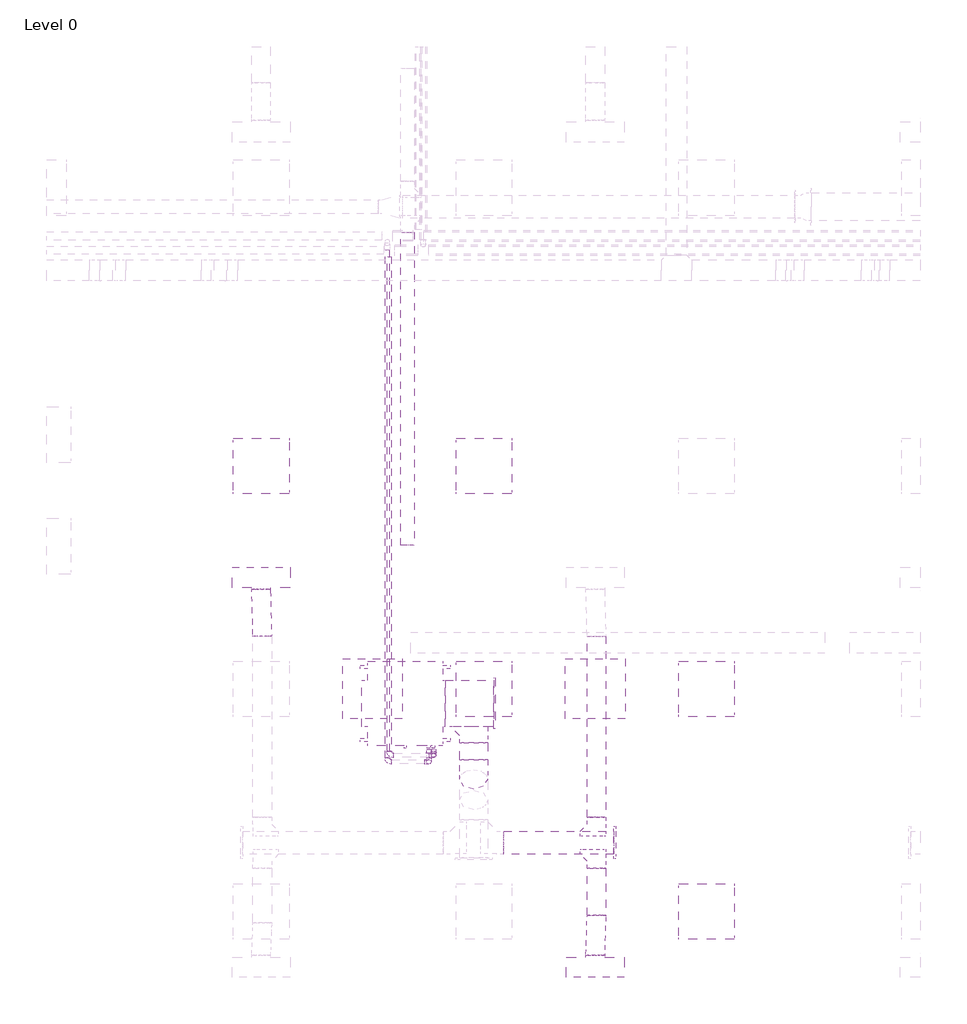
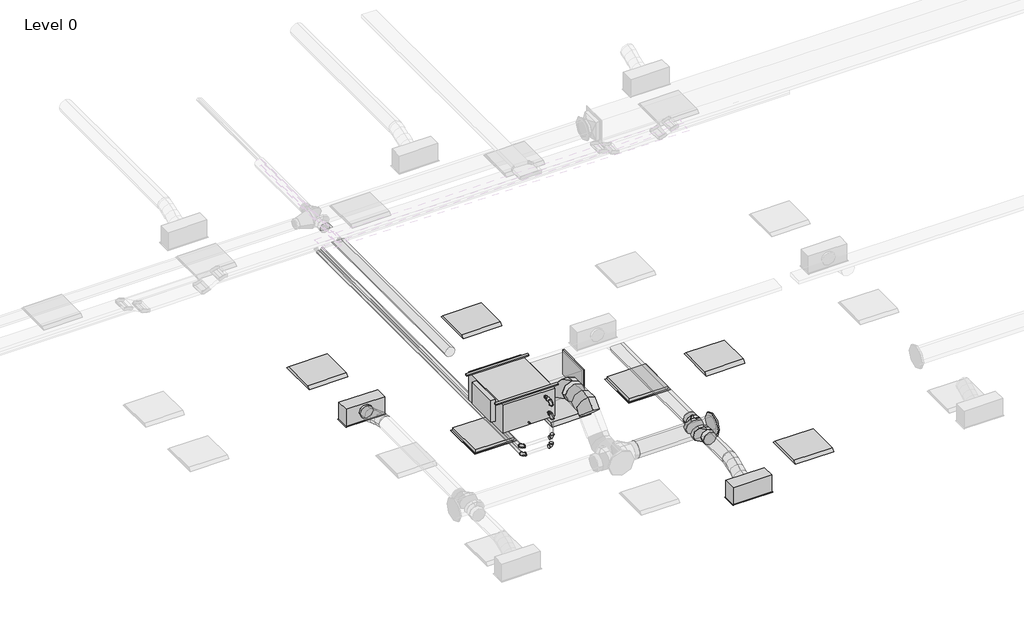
# One storey, part 2 of 34: 8 duct segments, 8 pipe fittings, 6 duct fittings, 5 light fixtures, 4 air terminals, 4 pipe segments, 1 proxy.
"""IFC4 building model written with IfcOpenShell, lengths in millimetres."""

from ifc_helpers import new_model, si_unit, point, frame, frame_2d, origin, place, context, project, spatial, polyline, circle_curve, ellipse_curve, trimmed, segment, composite_curve, outline, extrude, transform, mapped, element, save
from ifc_brep_helpers import plane_surface, cylinder_surface, advanced_brep
from components import return_grille_rectangular_hosted_standard_7b12617c, supply_diffuser_with_plenum_linear_slot_hosted_8c379eed, fan_coil_unit_ceiling_ducted_chw_376_lps_05d42c19, dw144_rectangular_blank_end_standard_8fde7d16, dw144_round_blank_end_standard_9aa061e7, dw144_round_segmented_bend_slip_joint_standard_8b80c5ae, dw144_round_shoe_branch_slip_joint1_standard_2_559552f4, dw144_round_shoe_branch_slip_joint1_standard_2_7ba9e4ed, light_fixture_1c7c1157, light_fixture_b730b5ca, elbow_threaded_gmi_standard_b4aa7741, socket_reducing_threaded_gmi_standard_0a4076b8

model = new_model("IFC4")

# Units and contexts
model_context = context("Model", 3, world=origin())
ifc_project = project(units=[si_unit("LENGTHUNIT", "METRE", prefix="MILLI")], contexts=[model_context])

# Site, building, storey
site = spatial("IfcSite", under=ifc_project)
building = spatial("IfcBuilding", under=site)
storey = spatial("IfcBuildingStorey", under=building, Name="Level 0", Elevation=0.0)

# Air terminals
placement = place(None, origin())
return_grille_rectangular_hosted_standard_shape = return_grille_rectangular_hosted_standard_7b12617c(model_context)
element("IfcAirTerminal", 1, ObjectType="Return Grille - Rectangular - Hosted : Standard", at=placement, inside=storey, context=model_context, shape_type="MappedRepresentation", body=[
    mapped(return_grille_rectangular_hosted_standard_shape, transform((10362.2000027, 3963.2000004, 2800.0), x_axis=(1.0, 0.0, 0.0), y_axis=(0.0, -1.0, 0.0), z_axis=(0.0, 0.0, -1.0))),
])
element("IfcAirTerminal", 2, ObjectType="Return Grille - Rectangular - Hosted : Standard", at=placement, inside=storey, context=model_context, shape_type="MappedRepresentation", body=[
    mapped(return_grille_rectangular_hosted_standard_shape, transform((12762.2000027, 3963.2000004, 2800.0), x_axis=(1.0, 0.0, 0.0), y_axis=(0.0, -1.0, 0.0), z_axis=(0.0, 0.0, -1.0))),
])
supply_diffuser_with_plenum_linear_slot_hosted_shape = supply_diffuser_with_plenum_linear_slot_hosted_8c379eed(model_context)
element("IfcAirTerminal", 3, ObjectType="Supply Diffuser with Plenum - Linear Slot - Hosted : 24\" x 8\"-200 In Inlet  4-Slot", at=placement, inside=storey, context=model_context, shape_type="MappedRepresentation", body=[
    mapped(supply_diffuser_with_plenum_linear_slot_hosted_shape, transform((12762.2000027, 963.2000004, 2800.0), x_axis=(1.0, 0.0, 0.0), y_axis=(0.0, -1.0, 0.0), z_axis=(0.0, 0.0, -1.0))),
])
element("IfcAirTerminal", 4, ObjectType="Supply Diffuser with Plenum - Linear Slot - Hosted : 24\" x 8\"-200 In Inlet  4-Slot", at=placement, inside=storey, context=model_context, shape_type="MappedRepresentation", body=[
    mapped(supply_diffuser_with_plenum_linear_slot_hosted_shape, transform((9162.2000027, 5163.2000004, 2800.0), x_axis=(-1.0, 0.0, 0.0), y_axis=(0.0, 1.0, 0.0), z_axis=(0.0, 0.0, -1.0))),
])

# Proxy
fan_coil_unit_ceiling_ducted_chw_376_lps_shape = fan_coil_unit_ceiling_ducted_chw_376_lps_05d42c19(model_context)
element("IfcBuildingElementProxy", 5, Name="Fan Coil Unit - Ceiling Ducted - CHW : 376 LPS", ObjectType="Fan Coil Unit - Ceiling Ducted - CHW : 376 LPS", at=placement, inside=storey, context=model_context, shape_type="MappedRepresentation", body=[
    mapped(fan_coil_unit_ceiling_ducted_chw_376_lps_shape, transform((11121.2561025, 4263.2000004, 3222.3911538), x_axis=(0.0, -1.0, 0.0), y_axis=(1.0, 0.0, 0.0), z_axis=(0.0, 0.0, 1.0))),
])

# Duct fittings
dw144_rectangular_blank_end_standard_shape = dw144_rectangular_blank_end_standard_8fde7d16(model_context)
element("IfcDuctFitting", 6, ObjectType="DW144 Rectangular Blank End : Standard", at=placement, inside=storey, context=model_context, shape_type="MappedRepresentation", body=[
    mapped(dw144_rectangular_blank_end_standard_shape, transform((11666.2561025, 3806.0000004, 3476.3911538), x_axis=(1.0, 0.0, 0.0), y_axis=(0.0, 1.0, 0.0), z_axis=(0.0, 0.0, 1.0))),
])
dw144_round_blank_end_standard_shape = dw144_round_blank_end_standard_9aa061e7(model_context)
element("IfcDuctFitting", 7, ObjectType="DW144 Round Blank End : Standard", at=placement, inside=storey, context=model_context, shape_type="MappedRepresentation", body=[
    mapped(dw144_round_blank_end_standard_shape, transform((12961.4561025, 2306.5018192, 3072.2088531), x_axis=(1.0, 0.0, 0.0), y_axis=(0.0, 1.0, 0.0), z_axis=(0.0, 0.0, 1.0))),
])
dw144_round_segmented_bend_slip_joint_standard_shape = dw144_round_segmented_bend_slip_joint_standard_8b80c5ae(model_context)
element("IfcDuctFitting", 8, ObjectType="DW144 Round Segmented Bend - Slip Joint : Standard", at=placement, inside=storey, context=model_context, shape_type="MappedRepresentation", body=[
    mapped(dw144_round_segmented_bend_slip_joint_standard_shape, transform((11451.4561025, 3076.0000004, 3469.575), x_axis=(0.0, -1.0, 0.0), y_axis=(0.0, 0.0, 1.0), z_axis=(-1.0, 0.0, 0.0))),
])
dw144_round_shoe_branch_slip_joint1_standard_2_shape = dw144_round_shoe_branch_slip_joint1_standard_2_559552f4(model_context)
element("IfcDuctFitting", 9, ObjectType="DW144 Round Shoe Branch - Slip Joint1 : Standard 2", at=placement, inside=storey, context=model_context, shape_type="MappedRepresentation", body=[
    mapped(dw144_round_shoe_branch_slip_joint1_standard_2_shape, transform((12773.9000022, 2181.5018192, 3072.2088531), x_axis=(0.0, -1.0, 0.0), y_axis=(-1.0, 0.0, 0.0), z_axis=(0.0, 0.0, -1.0))),
])
element("IfcDuctFitting", 10, ObjectType="DW144 Round Shoe Branch - Slip Joint1 : Standard 2", at=placement, inside=storey, context=model_context, shape_type="MappedRepresentation", body=[
    mapped(dw144_round_shoe_branch_slip_joint1_standard_2_shape, transform((12773.9000022, 2431.5018192, 3072.2088531), x_axis=(0.0, 1.0, 0.0), y_axis=(-1.0, 0.0, 0.0), z_axis=(0.0, 0.0, 1.0))),
])
dw144_round_shoe_branch_slip_joint1_standard_2_2_shape = dw144_round_shoe_branch_slip_joint1_standard_2_7ba9e4ed(model_context)
element("IfcDuctFitting", 11, ObjectType="DW144 Round Shoe Branch - Slip Joint1 : Standard 2", at=placement, inside=storey, context=model_context, shape_type="MappedRepresentation", body=[
    mapped(dw144_round_shoe_branch_slip_joint1_standard_2_2_shape, transform((11451.4561025, 3556.0000004, 3469.575), x_axis=(0.0, -1.0, 0.0), y_axis=(-1.0, 0.0, 0.0), z_axis=(0.0, 0.0, -1.0))),
])

# Duct segments
element("IfcDuctSegment", 12, ObjectType="DW144 Flanged Med Radius Bend / Shoe Branch", at=placement, inside=storey, context=model_context, shape_type="SweptSolid", body=[
    extrude(outline(polyline([(11146.6561025, 3556.0000004), (11146.6561025, 4056.0000004), (11666.2561025, 4056.0000004), (11666.2561025, 3556.0000004), (11146.6561025, 3556.0000004)])), frame((0.0, 0.0, 3301.3911538), z_axis=(0.0, 0.0, 1.0), x_axis=(1.0, 0.0, 0.0)), (0.0, 0.0, 1.0), 350.0),
])
element("IfcDuctSegment", 13, ObjectType="DW144 Segmented Bend / Shoe Branch", at=placement, inside=storey, context=model_context, shape_type="SweptSolid", body=[
    extrude(outline(composite_curve([segment(trimmed(circle_curve(frame_2d((3469.575, 11451.4561025)), 150.0), [point((3469.575, 11301.4561025))], [point((3319.575, 11451.4561025))], False, "CARTESIAN"), True, "CONTINUOUS"), segment(trimmed(circle_curve(frame_2d((3469.575, 11451.4561025)), 150.0), [point((3319.575, 11451.4561025))], [point((3469.575, 11601.4561025))], False, "CARTESIAN"), True, "CONTINUOUS"), segment(trimmed(circle_curve(frame_2d((3469.575, 11451.4561025)), 150.0), [point((3469.575, 11601.4561025))], [point((3619.575, 11451.4561025))], False, "CARTESIAN"), True, "CONTINUOUS"), segment(trimmed(circle_curve(frame_2d((3469.575, 11451.4561025)), 150.0), [point((3619.575, 11451.4561025))], [point((3469.575, 11301.4561025))], False, "CARTESIAN"), True, "CONTINUOUS")], self_intersect=False)), frame((0.0, 3200.2640691, 0.0), z_axis=(0.0, 1.0, 0.0), x_axis=(0.0, 0.0, 1.0)), (0.0, 0.0, 1.0), 180.7359313),
])
element("IfcDuctSegment", 14, ObjectType="DW144 Segmented Bend / Shoe Branch", at=placement, inside=storey, context=model_context, shape_type="SweptSolid", body=[
    extrude(outline(composite_curve([segment(trimmed(circle_curve(frame_2d((2306.5018192, 3072.2088531)), 125.0), [point((2181.5018192, 3072.2088531))], [point((2306.5018192, 3197.2088531))], False, "CARTESIAN"), True, "CONTINUOUS"), segment(trimmed(circle_curve(frame_2d((2306.5018192, 3072.2088531)), 125.0), [point((2306.5018192, 3197.2088531))], [point((2431.5018192, 3072.2088531))], False, "CARTESIAN"), True, "CONTINUOUS"), segment(trimmed(circle_curve(frame_2d((2306.5018192, 3072.2088531)), 125.0), [point((2431.5018192, 3072.2088531))], [point((2306.5018192, 2947.2088531))], False, "CARTESIAN"), True, "CONTINUOUS"), segment(trimmed(circle_curve(frame_2d((2306.5018192, 3072.2088531)), 125.0), [point((2306.5018192, 2947.2088531))], [point((2181.5018192, 3072.2088531))], False, "CARTESIAN"), True, "CONTINUOUS")], self_intersect=False)), frame((11776.4561025, 0.0, 0.0), z_axis=(1.0, 0.0, 0.0), x_axis=(0.0, 1.0, 0.0)), (0.0, 0.0, 1.0), 1185.0),
])
element("IfcDuctSegment", 15, ObjectType="DW144 Segmented Bend / Shoe Branch", at=placement, inside=storey, context=model_context, shape_type="SweptSolid", body=[
    extrude(outline(composite_curve([segment(trimmed(circle_curve(frame_2d((3072.2088531, 12773.9000022)), 100.0), [point((3072.2088531, 12673.9000022))], [point((2972.2088531, 12773.9000022))], False, "CARTESIAN"), True, "CONTINUOUS"), segment(trimmed(circle_curve(frame_2d((3072.2088531, 12773.9000022)), 100.0), [point((2972.2088531, 12773.9000022))], [point((3072.2088531, 12873.9000022))], False, "CARTESIAN"), True, "CONTINUOUS"), segment(trimmed(circle_curve(frame_2d((3072.2088531, 12773.9000022)), 100.0), [point((3072.2088531, 12873.9000022))], [point((3172.2088531, 12773.9000022))], False, "CARTESIAN"), True, "CONTINUOUS"), segment(trimmed(circle_curve(frame_2d((3072.2088531, 12773.9000022)), 100.0), [point((3172.2088531, 12773.9000022))], [point((3072.2088531, 12673.9000022))], False, "CARTESIAN"), True, "CONTINUOUS")], self_intersect=False)), frame((0.0, 1521.5018192, 0.0), z_axis=(0.0, 1.0, 0.0), x_axis=(0.0, 0.0, 1.0)), (0.0, 0.0, 1.0), 510.0),
])
element("IfcDuctSegment", 16, ObjectType="DW144 Segmented Bend / Shoe Branch", at=placement, inside=storey, context=model_context, shape_type="SweptSolid", body=[
    extrude(outline(composite_curve([segment(trimmed(circle_curve(frame_2d((3072.2088531, 12773.9000022)), 100.0), [point((3072.2088531, 12873.9000022))], [point((3172.2088531, 12773.9000022))], False, "CARTESIAN"), True, "CONTINUOUS"), segment(trimmed(circle_curve(frame_2d((3072.2088531, 12773.9000022)), 100.0), [point((3172.2088531, 12773.9000022))], [point((3072.2088531, 12673.9000022))], False, "CARTESIAN"), True, "CONTINUOUS"), segment(trimmed(circle_curve(frame_2d((3072.2088531, 12773.9000022)), 100.0), [point((3072.2088531, 12673.9000022))], [point((2972.2088531, 12773.9000022))], False, "CARTESIAN"), True, "CONTINUOUS"), segment(trimmed(circle_curve(frame_2d((3072.2088531, 12773.9000022)), 100.0), [point((2972.2088531, 12773.9000022))], [point((3072.2088531, 12873.9000022))], False, "CARTESIAN"), True, "CONTINUOUS")], self_intersect=False)), frame((0.0, 2581.5018192, 0.0), z_axis=(0.0, 1.0, 0.0), x_axis=(0.0, 0.0, 1.0)), (0.0, 0.0, 1.0), 1950.0),
])
element("IfcDuctSegment", 17, ObjectType="DW144 Segmented Bend / Shoe Branch", at=placement, inside=storey, context=model_context, shape_type="SweptSolid", body=[
    extrude(outline(composite_curve([segment(trimmed(circle_curve(frame_2d((3100.0, 10739.0080407)), 75.0), [point((3100.0, 10664.0080407))], [point((3025.0, 10739.0080407))], False, "CARTESIAN"), True, "CONTINUOUS"), segment(trimmed(circle_curve(frame_2d((3100.0, 10739.0080407)), 75.0), [point((3025.0, 10739.0080407))], [point((3100.0, 10814.0080407))], False, "CARTESIAN"), True, "CONTINUOUS"), segment(trimmed(circle_curve(frame_2d((3100.0, 10739.0080407)), 75.0), [point((3100.0, 10814.0080407))], [point((3175.0, 10739.0080407))], False, "CARTESIAN"), True, "CONTINUOUS"), segment(trimmed(circle_curve(frame_2d((3100.0, 10739.0080407)), 75.0), [point((3175.0, 10739.0080407))], [point((3100.0, 10664.0080407))], False, "CARTESIAN"), True, "CONTINUOUS")], self_intersect=False)), frame((0.0, 5510.2561435, 0.0), z_axis=(0.0, 1.0, 0.0), x_axis=(0.0, 0.0, 1.0)), (0.0, 0.0, 1.0), 3374.1601689),
])
element("IfcDuctSegment", 18, ObjectType="Flex - Round", at=placement, inside=storey, context=model_context, shape_type="AdvancedBrep", body=[
    advanced_brep(
    [(9073.9000022, 4531.5018192, 3072.2088531), (9173.9000022, 4531.5018192, 2972.2088531), (9273.9000022, 4531.5018192, 3072.2088531), (9173.9000022, 4531.5018192, 3172.2088531), (9073.9000022, 4545.0398748, 3072.2088531), (9173.9000022, 4537.729612, 2972.2088531), (9273.9000022, 4546.6519942, 3072.2088531), (9173.9000022, 4553.962257, 3172.2088531), (9062.2000027, 5034.3000004, 2954.4), (9162.2000027, 5034.3000004, 3054.4), (9262.2000027, 5034.3000004, 2954.4), (9162.2000027, 5034.3000004, 2854.4), (9072.0969471, 4656.1396088, 3054.0536514), (9172.3243089, 4634.8198875, 2956.3429867), (9272.0468075, 4660.8412095, 3053.5487883), (9171.8194457, 4682.1609309, 3151.2594529), (9068.0984043, 4779.8283707, 3013.7917909), (9168.5373668, 4751.9631047, 2918.2117629), (9268.0016006, 4785.9734489, 3012.8170622), (9167.5626381, 4813.8387149, 3108.3970903), (9064.0531974, 4904.9606101, 2973.0600649), (9164.2805591, 4883.6408888, 2875.3494002), (9264.0030578, 4909.6622108, 2972.5552017), (9163.775696, 4930.9819322, 3070.2658664), (9062.2000027, 5019.1498254, 2954.4), (9162.2000027, 5011.8395627, 2854.4), (9262.2000027, 5020.7619448, 2954.4), (9162.2000027, 5028.0722076, 3054.4)],
    [
        (0, 1, circle_curve(frame((9173.9000022, 4531.5018192, 3072.2088531), z_axis=(0.0, -1.0, 0.0), x_axis=(-1.0, 0.0, 0.0)), 100.0)),
        (1, 2, circle_curve(frame((9173.9000022, 4531.5018192, 3072.2088531), z_axis=(0.0, -1.0, 0.0), x_axis=(-1.0, 0.0, 0.0)), 100.0)),
        (2, 3, circle_curve(frame((9173.9000022, 4531.5018192, 3072.2088531), z_axis=(0.0, -1.0, 0.0), x_axis=(-1.0, 0.0, 0.0)), 100.0)),
        (3, 0, circle_curve(frame((9173.9000022, 4531.5018192, 3072.2088531), z_axis=(0.0, -1.0, 0.0), x_axis=(-1.0, 0.0, 0.0)), 100.0)),
        (0, 4),
        (4, 5, ellipse_curve(frame((9173.9000022, 4545.8459345, 3072.2088531), z_axis=(0.008033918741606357, -0.9966902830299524, 0.08089459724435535), x_axis=(-0.09850014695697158, -0.08129255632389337, -0.9918110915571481)), 100.3320708, 100.0)),
        (5, 1),
        (5, 6, ellipse_curve(frame((9173.9000022, 4545.8459345, 3072.2088531), z_axis=(0.008033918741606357, -0.9966902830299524, 0.08089459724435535), x_axis=(-0.09850014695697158, -0.08129255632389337, -0.9918110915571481)), 100.3320708, 100.0)),
        (6, 2),
        (6, 7, ellipse_curve(frame((9173.9000022, 4545.8459345, 3072.2088531), z_axis=(0.008033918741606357, -0.9966902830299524, 0.08089459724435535), x_axis=(-0.09850014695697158, -0.08129255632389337, -0.9918110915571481)), 100.3320708, 100.0)),
        (7, 3),
        (7, 4, ellipse_curve(frame((9173.9000022, 4545.8459345, 3072.2088531), z_axis=(0.008033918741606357, -0.9966902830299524, 0.08089459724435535), x_axis=(-0.09850014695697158, -0.08129255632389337, -0.9918110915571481)), 100.3320708, 100.0)),
        (8, 9, circle_curve(frame((9162.2000027, 5034.3000004, 2954.4), z_axis=(0.0, 1.0, 0.0), x_axis=(-1.0, 0.0, 0.0)), 100.0)),
        (9, 10, circle_curve(frame((9162.2000027, 5034.3000004, 2954.4), z_axis=(0.0, 1.0, 0.0), x_axis=(-1.0, 0.0, 0.0)), 100.0)),
        (10, 11, circle_curve(frame((9162.2000027, 5034.3000004, 2954.4), z_axis=(0.0, 1.0, 0.0), x_axis=(-1.0, 0.0, 0.0)), 100.0)),
        (11, 8, circle_curve(frame((9162.2000027, 5034.3000004, 2954.4), z_axis=(0.0, 1.0, 0.0), x_axis=(-1.0, 0.0, 0.0)), 100.0)),
        (4, 12),
        (12, 13, ellipse_curve(frame((9172.0718773, 4658.4904092, 3053.8012198), z_axis=(0.023438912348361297, -0.9714680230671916, 0.23600952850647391), x_axis=(-0.09600750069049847, -0.23717057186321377, -0.9667123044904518)), 100.2947714, 100.0)),
        (13, 5),
        (13, 14, ellipse_curve(frame((9172.0718773, 4658.4904092, 3053.8012198), z_axis=(0.023438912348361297, -0.9714680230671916, 0.23600952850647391), x_axis=(-0.09600750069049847, -0.23717057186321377, -0.9667123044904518)), 100.2947714, 100.0)),
        (14, 6),
        (14, 15, ellipse_curve(frame((9172.0718773, 4658.4904092, 3053.8012198), z_axis=(0.023438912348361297, -0.9714680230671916, 0.23600952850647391), x_axis=(-0.09600750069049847, -0.23717057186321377, -0.9667123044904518)), 100.2947714, 100.0)),
        (15, 7),
        (15, 12, ellipse_curve(frame((9172.0718773, 4658.4904092, 3053.8012198), z_axis=(0.023438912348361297, -0.9714680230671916, 0.23600952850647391), x_axis=(-0.09600750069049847, -0.23717057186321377, -0.9667123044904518)), 100.2947714, 100.0)),
        (12, 16),
        (16, 17, circle_curve(frame((9168.0500024, 4782.9009098, 3013.3044266), z_axis=(0.030725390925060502, -0.9504426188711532, 0.30937805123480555), x_axis=(-0.9995159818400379, -0.03072539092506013, 0.004873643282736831)), 100.0)),
        (17, 13),
        (17, 18, circle_curve(frame((9168.0500024, 4782.9009098, 3013.3044266), z_axis=(0.030725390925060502, -0.9504426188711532, 0.30937805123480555), x_axis=(-0.9995159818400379, -0.03072539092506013, 0.004873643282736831)), 100.0)),
        (18, 14),
        (18, 19, circle_curve(frame((9168.0500024, 4782.9009098, 3013.3044266), z_axis=(0.030725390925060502, -0.9504426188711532, 0.30937805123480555), x_axis=(-0.9995159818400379, -0.03072539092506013, 0.004873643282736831)), 100.0)),
        (19, 15),
        (19, 16, circle_curve(frame((9168.0500024, 4782.9009098, 3013.3044266), z_axis=(0.030725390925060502, -0.9504426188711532, 0.30937805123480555), x_axis=(-0.9995159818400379, -0.03072539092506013, 0.004873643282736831)), 100.0)),
        (16, 20),
        (20, 21, ellipse_curve(frame((9164.0281276, 4907.3114105, 2972.8076333), z_axis=(0.023438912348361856, -0.9714680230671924, 0.23600952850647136), x_axis=(0.0960075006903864, 0.2371705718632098, 0.9667123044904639)), 100.2947714, 100.0)),
        (21, 17),
        (21, 22, ellipse_curve(frame((9164.0281276, 4907.3114105, 2972.8076333), z_axis=(0.023438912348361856, -0.9714680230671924, 0.23600952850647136), x_axis=(0.0960075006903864, 0.2371705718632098, 0.9667123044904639)), 100.2947714, 100.0)),
        (22, 18),
        (22, 23, ellipse_curve(frame((9164.0281276, 4907.3114105, 2972.8076333), z_axis=(0.023438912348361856, -0.9714680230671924, 0.23600952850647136), x_axis=(0.0960075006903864, 0.2371705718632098, 0.9667123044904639)), 100.2947714, 100.0)),
        (23, 19),
        (23, 20, ellipse_curve(frame((9164.0281276, 4907.3114105, 2972.8076333), z_axis=(0.023438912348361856, -0.9714680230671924, 0.23600952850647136), x_axis=(0.0960075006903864, 0.2371705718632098, 0.9667123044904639)), 100.2947714, 100.0)),
        (20, 24),
        (24, 25, ellipse_curve(frame((9162.2000027, 5019.9558851, 2954.4), z_axis=(0.008033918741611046, -0.9966902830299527, 0.08089459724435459), x_axis=(0.09850014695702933, 0.08129255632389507, 0.9918110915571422)), 100.3320708, 100.0)),
        (25, 21),
        (25, 26, ellipse_curve(frame((9162.2000027, 5019.9558851, 2954.4), z_axis=(0.008033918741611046, -0.9966902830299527, 0.08089459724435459), x_axis=(0.09850014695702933, 0.08129255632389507, 0.9918110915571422)), 100.3320708, 100.0)),
        (26, 22),
        (26, 27, ellipse_curve(frame((9162.2000027, 5019.9558851, 2954.4), z_axis=(0.008033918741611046, -0.9966902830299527, 0.08089459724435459), x_axis=(0.09850014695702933, 0.08129255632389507, 0.9918110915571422)), 100.3320708, 100.0)),
        (27, 23),
        (27, 24, ellipse_curve(frame((9162.2000027, 5019.9558851, 2954.4), z_axis=(0.008033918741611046, -0.9966902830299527, 0.08089459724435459), x_axis=(0.09850014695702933, 0.08129255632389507, 0.9918110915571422)), 100.3320708, 100.0)),
        (24, 8),
        (11, 25),
        (10, 26),
        (9, 27),
    ],
    [
        plane_surface(frame((9073.9000022, 4531.5018192, 3072.2088531), z_axis=(0.0, -1.0, 0.0), x_axis=(0.0, 0.0, 1.0))),
        cylinder_surface(frame((9173.9000022, 4531.5018192, 3072.2088531), z_axis=(0.0, -1.0, 0.0), x_axis=(-1.0, 0.0, 0.0)), 100.0),
        plane_surface(frame((9062.2000027, 5034.3000004, 2954.4), z_axis=(0.0, 1.0, 0.0), x_axis=(0.0, 0.0, 1.0))),
        cylinder_surface(frame((9173.9000022, 4545.8459345, 3072.2088531), z_axis=(0.01601465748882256, -0.9867830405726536, 0.1612537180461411), x_axis=(-0.9998709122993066, -0.01601465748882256, 0.001299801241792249)), 100.0),
        cylinder_surface(frame((9172.0718773, 4658.4904092, 3053.8012198), z_axis=(0.030725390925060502, -0.9504426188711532, 0.30937805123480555), x_axis=(-0.9995159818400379, -0.03072539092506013, 0.004873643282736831)), 100.0),
        cylinder_surface(frame((9168.0500024, 4782.9009098, 3013.3044266), z_axis=(0.03072539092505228, -0.9504426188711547, 0.30937805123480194), x_axis=(-0.9995159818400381, -0.030725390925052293, 0.004873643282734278)), 100.0),
        cylinder_surface(frame((9164.0281276, 4907.3114105, 2972.8076333), z_axis=(0.016014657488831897, -0.9867830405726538, 0.16125371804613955), x_axis=(-0.9998709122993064, -0.01601465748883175, 0.0012998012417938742)), 100.0),
        cylinder_surface(frame((9162.2000027, 5019.9558851, 2954.4), z_axis=(0.0, -1.0, 0.0), x_axis=(-1.0, 0.0, 0.0)), 100.0),
    ],
    [
        (0, [[1, 2, 3, 4]]),
        (1, [[-1, 5, 6, 7]]),
        (1, [[-2, -7, 8, 9]]),
        (1, [[-3, -9, 10, 11]]),
        (1, [[-4, -11, 12, -5]]),
        (2, [[13, 14, 15, 16]]),
        (3, [[-6, 17, 18, 19]]),
        (3, [[-8, -19, 20, 21]]),
        (3, [[-10, -21, 22, 23]]),
        (3, [[-12, -23, 24, -17]]),
        (4, [[-18, 25, 26, 27]]),
        (4, [[-20, -27, 28, 29]]),
        (4, [[-22, -29, 30, 31]]),
        (4, [[-24, -31, 32, -25]]),
        (5, [[-26, 33, 34, 35]]),
        (5, [[-28, -35, 36, 37]]),
        (5, [[-30, -37, 38, 39]]),
        (5, [[-32, -39, 40, -33]]),
        (6, [[-34, 41, 42, 43]]),
        (6, [[-36, -43, 44, 45]]),
        (6, [[-38, -45, 46, 47]]),
        (6, [[-40, -47, 48, -41]]),
        (7, [[-42, 49, -16, 50]]),
        (7, [[-44, -50, -15, 51]]),
        (7, [[-46, -51, -14, 52]]),
        (7, [[-48, -52, -13, -49]]),
    ],
),
])
element("IfcDuctSegment", 19, ObjectType="Flex - Round", at=placement, inside=storey, context=model_context, shape_type="AdvancedBrep", body=[
    advanced_brep(
    [(12873.9000022, 1521.5018192, 3072.2088531), (12773.9000022, 1521.5018192, 2972.2088531), (12673.9000022, 1521.5018192, 3072.2088531), (12773.9000022, 1521.5018192, 3172.2088531), (12873.9000022, 1503.8483968, 3072.2088531), (12773.9000022, 1514.716186, 2972.2088531), (12673.9000022, 1505.8120174, 3072.2088531), (12773.9000022, 1494.9442282, 3172.2088531), (12862.2000027, 1092.1000004, 2954.4), (12762.2000027, 1092.1000004, 3054.4), (12662.2000027, 1092.1000004, 2954.4), (12762.2000027, 1092.1000004, 2854.4), (12872.0365094, 1409.8841765, 3053.4450953), (12772.4280018, 1440.492465, 2957.3870846), (12672.1072452, 1415.4145623, 3054.1573443), (12771.7157528, 1384.8062738, 3150.2153551), (12867.9849454, 1303.2543522, 3012.6493581), (12768.7050709, 1342.5116705, 2919.9003985), (12668.1150595, 1310.3474674, 3013.9594951), (12767.3949339, 1271.0901491, 3106.7084546), (12863.9927597, 1198.1872573, 2972.4515088), (12764.3842521, 1228.7955458, 2876.3934981), (12664.0634955, 1203.7176431, 2973.1637578), (12763.6720031, 1173.1093547, 3069.2217685), (12862.2000027, 1107.7898022, 2954.4), (12762.2000027, 1118.6575914, 2854.4), (12662.2000027, 1109.7534229, 2954.4), (12762.2000027, 1098.8856336, 3054.4)],
    [
        (0, 1, circle_curve(frame((12773.9000022, 1521.5018192, 3072.2088531), z_axis=(0.0, 1.0, 0.0), x_axis=(1.0, 0.0, 0.0)), 100.0)),
        (1, 2, circle_curve(frame((12773.9000022, 1521.5018192, 3072.2088531), z_axis=(0.0, 1.0, 0.0), x_axis=(1.0, 0.0, 0.0)), 100.0)),
        (2, 3, circle_curve(frame((12773.9000022, 1521.5018192, 3072.2088531), z_axis=(0.0, 1.0, 0.0), x_axis=(1.0, 0.0, 0.0)), 100.0)),
        (3, 0, circle_curve(frame((12773.9000022, 1521.5018192, 3072.2088531), z_axis=(0.0, 1.0, 0.0), x_axis=(1.0, 0.0, 0.0)), 100.0)),
        (0, 4),
        (4, 5, ellipse_curve(frame((12773.9000022, 1504.8302071, 3072.2088531), z_axis=(0.00977000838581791, 0.9951014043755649, 0.09837551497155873), x_axis=(-0.09834312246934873, 0.09885947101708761, -0.990229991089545)), 100.492271, 100.0)),
        (5, 1),
        (5, 6, ellipse_curve(frame((12773.9000022, 1504.8302071, 3072.2088531), z_axis=(0.00977000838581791, 0.9951014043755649, 0.09837551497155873), x_axis=(-0.09834312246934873, 0.09885947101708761, -0.990229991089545)), 100.492271, 100.0)),
        (6, 2),
        (6, 7, ellipse_curve(frame((12773.9000022, 1504.8302071, 3072.2088531), z_axis=(0.00977000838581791, 0.9951014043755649, 0.09837551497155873), x_axis=(-0.09834312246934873, 0.09885947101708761, -0.990229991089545)), 100.492271, 100.0)),
        (7, 3),
        (7, 4, ellipse_curve(frame((12773.9000022, 1504.8302071, 3072.2088531), z_axis=(0.00977000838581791, 0.9951014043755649, 0.09837551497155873), x_axis=(-0.09834312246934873, 0.09885947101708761, -0.990229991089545)), 100.492271, 100.0)),
        (8, 9, circle_curve(frame((12762.2000027, 1092.1000004, 2954.4), z_axis=(0.0, -1.0, 0.0), x_axis=(1.0, 0.0, 0.0)), 100.0)),
        (9, 10, circle_curve(frame((12762.2000027, 1092.1000004, 2954.4), z_axis=(0.0, -1.0, 0.0), x_axis=(1.0, 0.0, 0.0)), 100.0)),
        (10, 11, circle_curve(frame((12762.2000027, 1092.1000004, 2954.4), z_axis=(0.0, -1.0, 0.0), x_axis=(1.0, 0.0, 0.0)), 100.0)),
        (11, 8, circle_curve(frame((12762.2000027, 1092.1000004, 2954.4), z_axis=(0.0, -1.0, 0.0), x_axis=(1.0, 0.0, 0.0)), 100.0)),
        (4, 12),
        (12, 13, ellipse_curve(frame((12772.0718773, 1412.6493694, 3053.8012198), z_axis=(0.027553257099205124, 0.9603485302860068, 0.27743741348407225), x_axis=(-0.09490859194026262, 0.27880226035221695, -0.9556472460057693)), 100.358114, 100.0)),
        (13, 5),
        (13, 14, ellipse_curve(frame((12772.0718773, 1412.6493694, 3053.8012198), z_axis=(0.027553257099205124, 0.9603485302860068, 0.27743741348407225), x_axis=(-0.09490859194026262, 0.27880226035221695, -0.9556472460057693)), 100.358114, 100.0)),
        (14, 6),
        (14, 15, ellipse_curve(frame((12772.0718773, 1412.6493694, 3053.8012198), z_axis=(0.027553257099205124, 0.9603485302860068, 0.27743741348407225), x_axis=(-0.09490859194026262, 0.27880226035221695, -0.9556472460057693)), 100.358114, 100.0)),
        (15, 7),
        (15, 12, ellipse_curve(frame((12772.0718773, 1412.6493694, 3053.8012198), z_axis=(0.027553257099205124, 0.9603485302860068, 0.27743741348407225), x_axis=(-0.09490859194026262, 0.27880226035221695, -0.9556472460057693)), 100.358114, 100.0)),
        (12, 16),
        (16, 17, circle_curve(frame((12768.0500024, 1306.8009098, 3013.3044266), z_axis=(0.03546557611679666, 0.9333897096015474, 0.35710760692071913), x_axis=(0.9993494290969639, -0.035465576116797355, -0.006550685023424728)), 100.0)),
        (17, 13),
        (17, 18, circle_curve(frame((12768.0500024, 1306.8009098, 3013.3044266), z_axis=(0.03546557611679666, 0.9333897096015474, 0.35710760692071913), x_axis=(0.9993494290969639, -0.035465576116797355, -0.006550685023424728)), 100.0)),
        (18, 14),
        (18, 19, circle_curve(frame((12768.0500024, 1306.8009098, 3013.3044266), z_axis=(0.03546557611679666, 0.9333897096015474, 0.35710760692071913), x_axis=(0.9993494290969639, -0.035465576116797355, -0.006550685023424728)), 100.0)),
        (19, 15),
        (19, 16, circle_curve(frame((12768.0500024, 1306.8009098, 3013.3044266), z_axis=(0.03546557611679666, 0.9333897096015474, 0.35710760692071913), x_axis=(0.9993494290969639, -0.035465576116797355, -0.006550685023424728)), 100.0)),
        (16, 20),
        (20, 21, ellipse_curve(frame((12764.0281276, 1200.9524502, 2972.8076333), z_axis=(0.027553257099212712, 0.9603485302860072, 0.27743741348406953), x_axis=(0.09490859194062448, -0.278802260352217, 0.9556472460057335)), 100.358114, 100.0)),
        (21, 17),
        (21, 22, ellipse_curve(frame((12764.0281276, 1200.9524502, 2972.8076333), z_axis=(0.027553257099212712, 0.9603485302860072, 0.27743741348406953), x_axis=(0.09490859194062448, -0.278802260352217, 0.9556472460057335)), 100.358114, 100.0)),
        (22, 18),
        (22, 23, ellipse_curve(frame((12764.0281276, 1200.9524502, 2972.8076333), z_axis=(0.027553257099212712, 0.9603485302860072, 0.27743741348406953), x_axis=(0.09490859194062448, -0.278802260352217, 0.9556472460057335)), 100.358114, 100.0)),
        (23, 19),
        (23, 20, ellipse_curve(frame((12764.0281276, 1200.9524502, 2972.8076333), z_axis=(0.027553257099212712, 0.9603485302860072, 0.27743741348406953), x_axis=(0.09490859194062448, -0.278802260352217, 0.9556472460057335)), 100.358114, 100.0)),
        (20, 24),
        (24, 25, ellipse_curve(frame((12762.2000027, 1108.7716125, 2954.4), z_axis=(0.00977000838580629, 0.9951014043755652, 0.0983755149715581), x_axis=(0.0983431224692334, -0.09885947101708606, 0.9902299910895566)), 100.492271, 100.0)),
        (25, 21),
        (25, 26, ellipse_curve(frame((12762.2000027, 1108.7716125, 2954.4), z_axis=(0.00977000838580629, 0.9951014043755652, 0.0983755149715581), x_axis=(0.0983431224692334, -0.09885947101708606, 0.9902299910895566)), 100.492271, 100.0)),
        (26, 22),
        (26, 27, ellipse_curve(frame((12762.2000027, 1108.7716125, 2954.4), z_axis=(0.00977000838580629, 0.9951014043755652, 0.0983755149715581), x_axis=(0.0983431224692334, -0.09885947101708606, 0.9902299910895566)), 100.492271, 100.0)),
        (27, 23),
        (27, 24, ellipse_curve(frame((12762.2000027, 1108.7716125, 2954.4), z_axis=(0.00977000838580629, 0.9951014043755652, 0.0983755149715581), x_axis=(0.0983431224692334, -0.09885947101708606, 0.9902299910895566)), 100.492271, 100.0)),
        (24, 8),
        (11, 25),
        (10, 26),
        (9, 27),
    ],
    [
        plane_surface(frame((12673.9000022, 1521.5018192, 3072.2088531), z_axis=(0.0, 1.0, 0.0), x_axis=(0.0, 0.0, -1.0))),
        cylinder_surface(frame((12773.9000022, 1521.5018192, 3072.2088531), z_axis=(0.0, 1.0, 0.0), x_axis=(1.0, 0.0, 0.0)), 100.0),
        plane_surface(frame((12662.2000027, 1092.1000004, 2954.4), z_axis=(0.0, -1.0, 0.0), x_axis=(0.0, 0.0, -1.0))),
        cylinder_surface(frame((12773.9000022, 1504.8302071, 3072.2088531), z_axis=(0.0194442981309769, 0.9804536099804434, 0.19578722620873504), x_axis=(0.9998090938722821, -0.0194442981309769, -0.001922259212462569)), 100.0),
        cylinder_surface(frame((12772.0718773, 1412.6493694, 3053.8012198), z_axis=(0.03546557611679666, 0.9333897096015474, 0.35710760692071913), x_axis=(0.9993494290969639, -0.035465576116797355, -0.006550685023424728)), 100.0),
        cylinder_surface(frame((12768.0500024, 1306.8009098, 3013.3044266), z_axis=(0.03546557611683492, 0.9333897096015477, 0.35710760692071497), x_axis=(0.9993494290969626, -0.03546557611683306, -0.006550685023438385)), 100.0),
        cylinder_surface(frame((12764.0281276, 1200.9524502, 2972.8076333), z_axis=(0.01944429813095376, 0.9804536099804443, 0.19578722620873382), x_axis=(0.9998090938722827, -0.019444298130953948, -0.0019222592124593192)), 100.0),
        cylinder_surface(frame((12762.2000027, 1108.7716125, 2954.4), z_axis=(0.0, 1.0, 0.0), x_axis=(1.0, 0.0, 0.0)), 100.0),
    ],
    [
        (0, [[1, 2, 3, 4]]),
        (1, [[-1, 5, 6, 7]]),
        (1, [[-2, -7, 8, 9]]),
        (1, [[-3, -9, 10, 11]]),
        (1, [[-4, -11, 12, -5]]),
        (2, [[13, 14, 15, 16]]),
        (3, [[-6, 17, 18, 19]]),
        (3, [[-8, -19, 20, 21]]),
        (3, [[-10, -21, 22, 23]]),
        (3, [[-12, -23, 24, -17]]),
        (4, [[-18, 25, 26, 27]]),
        (4, [[-20, -27, 28, 29]]),
        (4, [[-22, -29, 30, 31]]),
        (4, [[-24, -31, 32, -25]]),
        (5, [[-26, 33, 34, 35]]),
        (5, [[-28, -35, 36, 37]]),
        (5, [[-30, -37, 38, 39]]),
        (5, [[-32, -39, 40, -33]]),
        (6, [[-34, 41, 42, 43]]),
        (6, [[-36, -43, 44, 45]]),
        (6, [[-38, -45, 46, 47]]),
        (6, [[-40, -47, 48, -41]]),
        (7, [[-42, 49, -16, 50]]),
        (7, [[-44, -50, -15, 51]]),
        (7, [[-46, -51, -14, 52]]),
        (7, [[-48, -52, -13, -49]]),
    ],
),
])

# Light fixtures
light_fixture_shape = light_fixture_1c7c1157(model_context)
element("IfcLightFixture", 20, ObjectType="ELEKTRA Plain Recessed Lighting Fixture : 24\" x 24\" - 230", at=placement, inside=storey, context=model_context, shape_type="MappedRepresentation", body=[
    mapped(light_fixture_shape, transform((13662.2000027, 1263.2000004, 2800.0), x_axis=(1.0, 0.0, 0.0), y_axis=(0.0, -1.0, 0.0), z_axis=(0.0, 0.0, -1.0))),
])
element("IfcLightFixture", 21, ObjectType="ELEKTRA Plain Recessed Lighting Fixture : 24\" x 24\" - 230", at=placement, inside=storey, context=model_context, shape_type="MappedRepresentation", body=[
    mapped(light_fixture_shape, transform((11262.2000027, 3663.2000004, 2800.0), x_axis=(1.0, 0.0, 0.0), y_axis=(0.0, -1.0, 0.0), z_axis=(0.0, 0.0, -1.0))),
])
element("IfcLightFixture", 22, ObjectType="ELEKTRA Plain Recessed Lighting Fixture : 24\" x 24\" - 230", at=placement, inside=storey, context=model_context, shape_type="MappedRepresentation", body=[
    mapped(light_fixture_shape, transform((8862.2000027, 6063.2000004, 2800.0), x_axis=(1.0, 0.0, 0.0), y_axis=(0.0, -1.0, 0.0), z_axis=(0.0, 0.0, -1.0))),
])
element("IfcLightFixture", 23, ObjectType="ELEKTRA Plain Recessed Lighting Fixture : 24\" x 24\" - 230", at=placement, inside=storey, context=model_context, shape_type="MappedRepresentation", body=[
    mapped(light_fixture_shape, transform((11262.2000027, 6063.2000004, 2800.0), x_axis=(1.0, 0.0, 0.0), y_axis=(0.0, -1.0, 0.0), z_axis=(0.0, 0.0, -1.0))),
])
light_fixture_2_shape = light_fixture_b730b5ca(model_context)
element("IfcLightFixture", 24, ObjectType="ELEKTRA EM Recessed Lighting Fixture : 24\" x 24\" - 230", at=placement, inside=storey, context=model_context, shape_type="MappedRepresentation", body=[
    mapped(light_fixture_2_shape, transform((13662.2000027, 3663.2000004, 2800.0), x_axis=(1.0, 0.0, 0.0), y_axis=(0.0, -1.0, 0.0), z_axis=(0.0, 0.0, -1.0))),
])

# Pipe fittings
elbow_threaded_gmi_standard_shape = elbow_threaded_gmi_standard_b4aa7741(model_context)
element("IfcPipeFitting", 25, ObjectType="Elbow - Threaded - GMI : Standard", at=placement, inside=storey, context=model_context, shape_type="MappedRepresentation", body=[
    mapped(elbow_threaded_gmi_standard_shape, transform((10968.8561025, 3177.232951, 2893.9343179), x_axis=(0.0, 0.0, -1.0), y_axis=(-1.0, 0.0, 0.0), z_axis=(0.0, 1.0, 0.0))),
])
element("IfcPipeFitting", 26, ObjectType="Elbow - Threaded - GMI : Standard", at=placement, inside=storey, context=model_context, shape_type="MappedRepresentation", body=[
    mapped(elbow_threaded_gmi_standard_shape, transform((10521.3774685, 3177.232951, 2893.9343179), x_axis=(0.0, -1.0, 0.0), y_axis=(1.0, 0.0, 0.0), z_axis=(0.0, 0.0, 1.0))),
])
element("IfcPipeFitting", 27, ObjectType="Elbow - Threaded - GMI : Standard", at=placement, inside=storey, context=model_context, shape_type="MappedRepresentation", body=[
    mapped(elbow_threaded_gmi_standard_shape, transform((11019.6561025, 3246.7427522, 2980.0), x_axis=(0.0, 0.0, -1.0), y_axis=(-1.0, 0.0, 0.0), z_axis=(0.0, 1.0, 0.0))),
])
element("IfcPipeFitting", 28, ObjectType="Elbow - Threaded - GMI : Standard", at=placement, inside=storey, context=model_context, shape_type="MappedRepresentation", body=[
    mapped(elbow_threaded_gmi_standard_shape, transform((10542.0529581, 3246.7427522, 2980.0), x_axis=(0.0, -1.0, 0.0), y_axis=(1.0, 0.0, 0.0), z_axis=(0.0, 0.0, 1.0))),
])
element("IfcPipeFitting", 29, ObjectType="Elbow - Threaded - GMI : Standard", at=placement, inside=storey, context=model_context, shape_type="MappedRepresentation", body=[
    mapped(elbow_threaded_gmi_standard_shape, transform((11019.6561025, 3246.7427522, 3323.9911538), x_axis=(0.0, 0.0, 1.0), y_axis=(0.0, 1.0, 0.0), z_axis=(-1.0, 0.0, 0.0))),
])
element("IfcPipeFitting", 30, ObjectType="Elbow - Threaded - GMI : Standard", at=placement, inside=storey, context=model_context, shape_type="MappedRepresentation", body=[
    mapped(elbow_threaded_gmi_standard_shape, transform((10968.8561025, 3177.232951, 3603.3911538), x_axis=(0.0, 0.0, 1.0), y_axis=(0.0, 1.0, 0.0), z_axis=(-1.0, 0.0, 0.0))),
])
socket_reducing_threaded_gmi_standard_shape = socket_reducing_threaded_gmi_standard_0a4076b8(model_context)
element("IfcPipeFitting", 31, ObjectType="Socket Reducing - Threaded - GMI : Standard", at=placement, inside=storey, context=model_context, shape_type="MappedRepresentation", body=[
    mapped(socket_reducing_threaded_gmi_standard_shape, transform((11019.6561025, 3323.4000004, 3323.9911538), x_axis=(0.0, -1.0, 0.0), y_axis=(1.0, 0.0, 0.0), z_axis=(0.0, 0.0, 1.0))),
])
element("IfcPipeFitting", 32, ObjectType="Socket Reducing - Threaded - GMI : Standard", at=placement, inside=storey, context=model_context, shape_type="MappedRepresentation", body=[
    mapped(socket_reducing_threaded_gmi_standard_shape, transform((10968.8561025, 3323.4000004, 3603.3911538), x_axis=(0.0, -1.0, 0.0), y_axis=(1.0, 0.0, 0.0), z_axis=(0.0, 0.0, 1.0))),
])

# Pipe segments
element("IfcPipeSegment", 33, ObjectType="Carbon Steel - Threaded", at=placement, inside=storey, context=model_context, shape_type="SweptSolid", body=[
    extrude(outline(composite_curve([segment(trimmed(circle_curve(frame_2d((2980.0, 10542.0529581)), 21.45), [point((2980.0, 10563.5029581))], [point((3001.45, 10542.0529581))], False, "CARTESIAN"), True, "CONTINUOUS"), segment(trimmed(circle_curve(frame_2d((2980.0, 10542.0529581)), 21.45), [point((3001.45, 10542.0529581))], [point((2980.0, 10520.6029581))], False, "CARTESIAN"), True, "CONTINUOUS"), segment(trimmed(circle_curve(frame_2d((2980.0, 10542.0529581)), 21.45), [point((2980.0, 10520.6029581))], [point((2958.55, 10542.0529581))], False, "CARTESIAN"), True, "CONTINUOUS"), segment(trimmed(circle_curve(frame_2d((2980.0, 10542.0529581)), 21.45), [point((2958.55, 10542.0529581))], [point((2980.0, 10563.5029581))], False, "CARTESIAN"), True, "CONTINUOUS")], self_intersect=False)), frame((0.0, 3291.7427522, 0.0), z_axis=(0.0, 1.0, 0.0), x_axis=(0.0, 0.0, 1.0)), (0.0, 0.0, 1.0), 5328.6137662),
])
element("IfcPipeSegment", 34, ObjectType="Carbon Steel - Threaded", at=placement, inside=storey, context=model_context, shape_type="SweptSolid", body=[
    extrude(outline(composite_curve([segment(trimmed(circle_curve(frame_2d((2893.9343179, 10521.3774685)), 21.45), [point((2893.9343179, 10499.9274685))], [point((2872.4843179, 10521.3774685))], False, "CARTESIAN"), True, "CONTINUOUS"), segment(trimmed(circle_curve(frame_2d((2893.9343179, 10521.3774685)), 21.45), [point((2872.4843179, 10521.3774685))], [point((2893.9343179, 10542.8274685))], False, "CARTESIAN"), True, "CONTINUOUS"), segment(trimmed(circle_curve(frame_2d((2893.9343179, 10521.3774685)), 21.45), [point((2893.9343179, 10542.8274685))], [point((2915.3843179, 10521.3774685))], False, "CARTESIAN"), True, "CONTINUOUS"), segment(trimmed(circle_curve(frame_2d((2893.9343179, 10521.3774685)), 21.45), [point((2915.3843179, 10521.3774685))], [point((2893.9343179, 10499.9274685))], False, "CARTESIAN"), True, "CONTINUOUS")], self_intersect=False)), frame((0.0, 3222.232951, 0.0), z_axis=(0.0, 1.0, 0.0), x_axis=(0.0, 0.0, 1.0)), (0.0, 0.0, 1.0), 5474.9243983),
])
element("IfcPipeSegment", 35, ObjectType="Carbon Steel - Threaded", at=placement, inside=storey, context=model_context, shape_type="SweptSolid", body=[
    extrude(outline(composite_curve([segment(trimmed(circle_curve(frame_2d((3323.9911538, 11019.6561025)), 21.45), [point((3323.9911538, 10998.2061025))], [point((3302.5411538, 11019.6561025))], False, "CARTESIAN"), True, "CONTINUOUS"), segment(trimmed(circle_curve(frame_2d((3323.9911538, 11019.6561025)), 21.45), [point((3302.5411538, 11019.6561025))], [point((3323.9911538, 11041.1061025))], False, "CARTESIAN"), True, "CONTINUOUS"), segment(trimmed(circle_curve(frame_2d((3323.9911538, 11019.6561025)), 21.45), [point((3323.9911538, 11041.1061025))], [point((3345.4411538, 11019.6561025))], False, "CARTESIAN"), True, "CONTINUOUS"), segment(trimmed(circle_curve(frame_2d((3323.9911538, 11019.6561025)), 21.45), [point((3345.4411538, 11019.6561025))], [point((3323.9911538, 10998.2061025))], False, "CARTESIAN"), True, "CONTINUOUS")], self_intersect=False)), frame((0.0, 3271.4000004, 0.0), z_axis=(0.0, 1.0, 0.0), x_axis=(0.0, 0.0, 1.0)), (0.0, 0.0, 1.0), 20.3427518),
])
element("IfcPipeSegment", 36, ObjectType="Carbon Steel - Threaded", at=placement, inside=storey, context=model_context, shape_type="SweptSolid", body=[
    extrude(outline(composite_curve([segment(trimmed(circle_curve(frame_2d((11019.6561025, 3246.7427522)), 21.45), [point((11041.1061025, 3246.7427522))], [point((11019.6561025, 3225.2927522))], False, "CARTESIAN"), True, "CONTINUOUS"), segment(trimmed(circle_curve(frame_2d((11019.6561025, 3246.7427522)), 21.45), [point((11019.6561025, 3225.2927522))], [point((10998.2061025, 3246.7427522))], False, "CARTESIAN"), True, "CONTINUOUS"), segment(trimmed(circle_curve(frame_2d((11019.6561025, 3246.7427522)), 21.45), [point((10998.2061025, 3246.7427522))], [point((11019.6561025, 3268.1927522))], False, "CARTESIAN"), True, "CONTINUOUS"), segment(trimmed(circle_curve(frame_2d((11019.6561025, 3246.7427522)), 21.45), [point((11019.6561025, 3268.1927522))], [point((11041.1061025, 3246.7427522))], False, "CARTESIAN"), True, "CONTINUOUS")], self_intersect=False)), frame((0.0, 0.0, 3025.0), z_axis=(0.0, 0.0, 1.0), x_axis=(1.0, 0.0, 0.0)), (0.0, 0.0, 1.0), 253.9911538),
])

save(model, "model.ifc")
